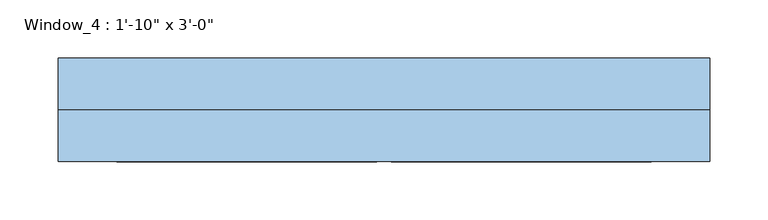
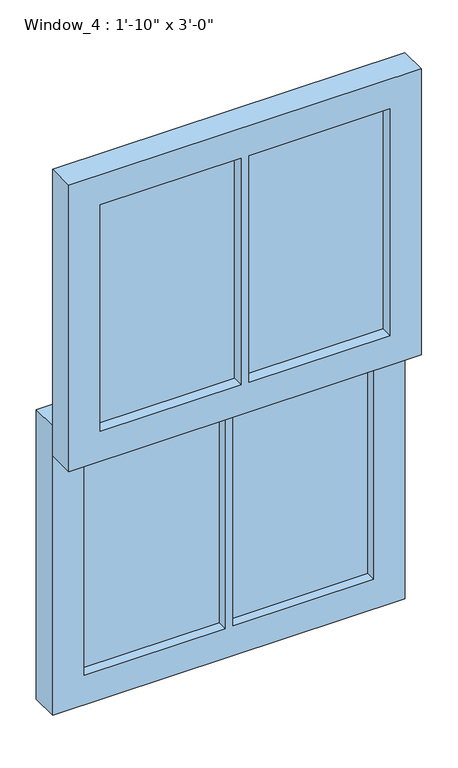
"""IFC4 building model written with IfcOpenShell, lengths in millimetres: window geometry."""

from ifc_helpers import new_model, si_unit, frame, origin, place, context, project, spatial, polyline, outline, extrude, source, transform, mapped, element, save


def window_b2b55fbc(model_context):
    return source(origin(), model_context, "Body", "SweptSolid", [
        extrude(outline(polyline([(-6.35, -12.7), (-6.35, -19.6353592), (-229.4, -19.6353592), (-229.4, -12.7), (-6.35, -12.7)])), frame((0.0, 0.0, 1323.175), z_axis=(0.0, 0.0, 1.0), x_axis=(1.0, 0.0, 0.0)), (0.0, 0.0, 1.0), 379.425),
        extrude(outline(polyline([(229.4, -12.7), (229.4, -19.6353592), (6.35, -19.6353592), (6.35, -12.7), (229.4, -12.7)])), frame((0.0, 0.0, 1323.175), z_axis=(0.0, 0.0, 1.0), x_axis=(1.0, 0.0, 0.0)), (0.0, 0.0, 1.0), 379.425),
        extrude(outline(polyline([(1752.6, -279.4), (1273.175, -279.4), (1273.175, 279.4), (1752.6, 279.4), (1752.6, -279.4)]), holes=[polyline([(1702.6, 6.35), (1702.6, 229.4), (1323.175, 229.4), (1323.175, 6.35), (1702.6, 6.35)]), polyline([(1323.175, -229.4), (1702.6, -229.4), (1702.6, -6.35), (1323.175, -6.35), (1323.175, -229.4)])]), frame((0.0, -38.1, 0.0), z_axis=(0.0, 1.0, 0.0), x_axis=(0.0, 0.0, 1.0)), (0.0, 0.0, 1.0), 44.45),
        extrude(outline(polyline([(6.35, 22.225), (6.35, 34.925), (229.4, 34.925), (229.4, 22.225), (6.35, 22.225)])), frame((0.0, 0.0, 888.2), z_axis=(0.0, 0.0, 1.0), x_axis=(1.0, 0.0, 0.0)), (0.0, 0.0, 1.0), 384.975),
        extrude(outline(polyline([(-229.4, 22.225), (-229.4, 34.925), (-6.35, 34.925), (-6.35, 22.225), (-229.4, 22.225)])), frame((0.0, 0.0, 888.2), z_axis=(0.0, 0.0, 1.0), x_axis=(1.0, 0.0, 0.0)), (0.0, 0.0, 1.0), 384.975),
        extrude(outline(polyline([(1323.175, -279.4), (838.2, -279.4), (838.2, 279.4), (1323.175, 279.4), (1323.175, -279.4)]), holes=[polyline([(888.2, -229.4), (1273.175, -229.4), (1273.175, -6.35), (888.2, -6.35), (888.2, -229.4)]), polyline([(1273.175, 6.35), (1273.175, 229.4), (888.2, 229.4), (888.2, 6.35), (1273.175, 6.35)])]), frame((0.0, 6.35, 0.0), z_axis=(0.0, 1.0, 0.0), x_axis=(0.0, 0.0, 1.0)), (0.0, 0.0, 1.0), 44.45),
    ])


if __name__ == "__main__":
    model = new_model("IFC4")
    model_context = context("Model", 3, world=origin())
    ifc_project = project(units=[si_unit("LENGTHUNIT", "METRE", prefix="MILLI")], contexts=[model_context])
    site = spatial("IfcSite", under=ifc_project)
    building = spatial("IfcBuilding", under=site)
    placement = place(None, origin())
    window_shape = window_b2b55fbc(model_context)
    element("IfcWindow", 1, ObjectType="Window_4 : 1'-10\" x 3'-0\"", at=placement, inside=building, context=model_context, shape_type="MappedRepresentation", body=[
        mapped(window_shape, transform((0.0, 0.0, 0.0), x_axis=(1.0, 0.0, 0.0), y_axis=(0.0, 1.0, 0.0), z_axis=(0.0, 0.0, 1.0))),
    ])
    save(model, "model.ifc")
